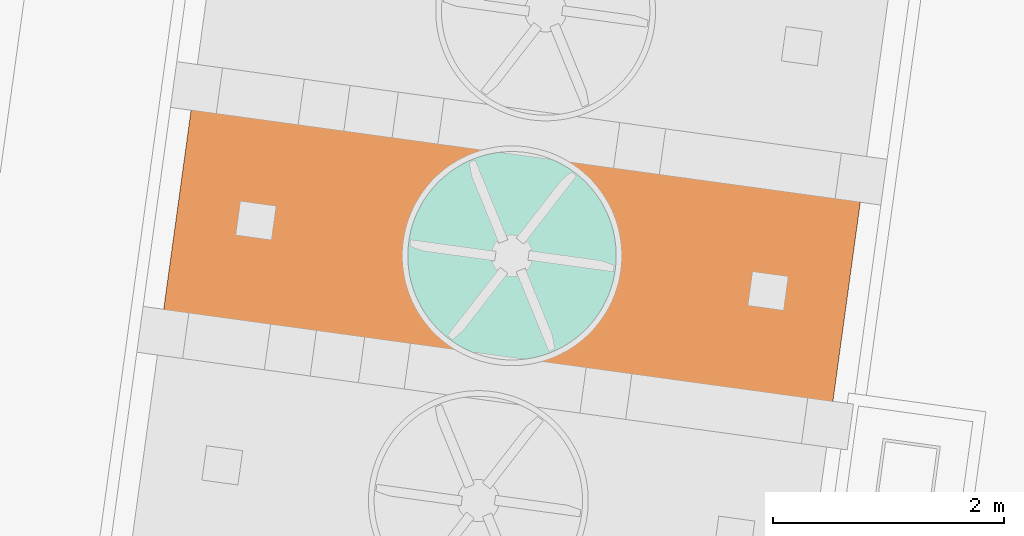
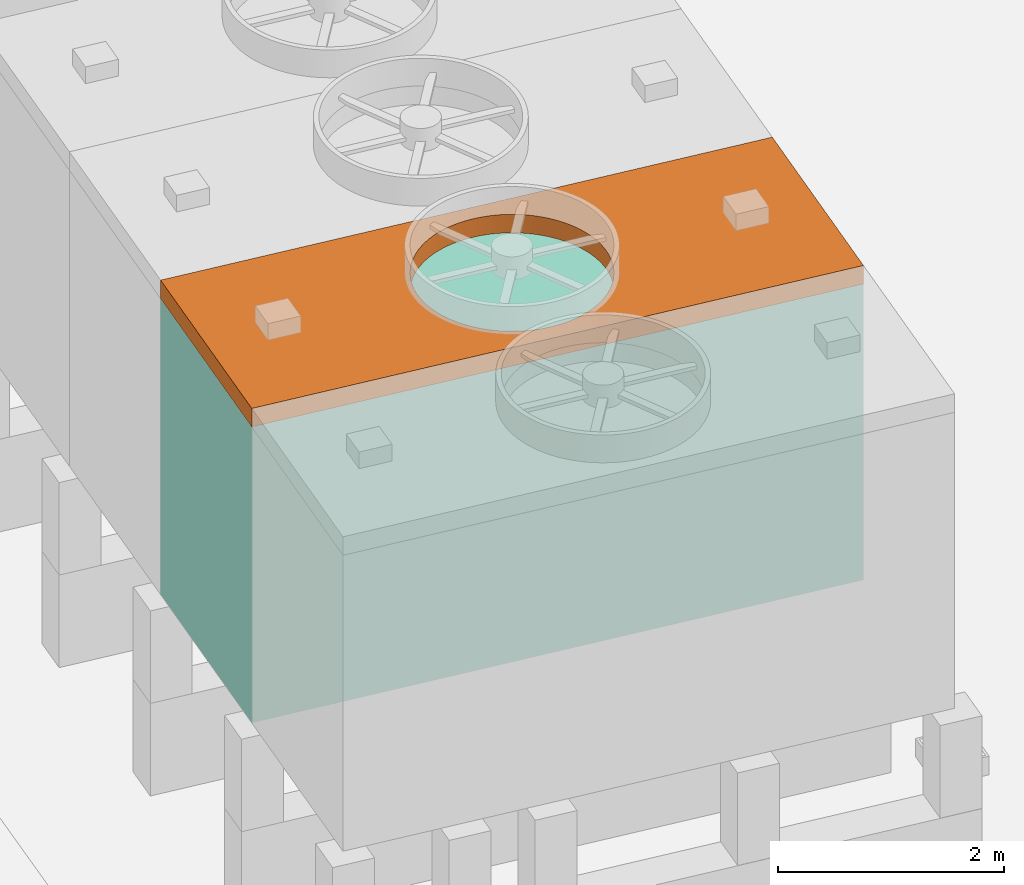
# Not in any storey, part 39 of 75: 1 proxy, plus 1 element that does not belong to this part.
"""IFC4 model written with IfcOpenShell, lengths in metres."""

from ifc_helpers import new_model, si_unit, direction, origin_with_axes, place, context, subcontext, project, spatial, triangles, element, aggregate, save


model = new_model("IFC4")

# Units and contexts
model_context = context("Model", 3, precision=1e-05, world=origin_with_axes(), true_north=direction((0.0, 1.0)))
body_context = subcontext(model_context, "Body", "Model", "MODEL_VIEW")
ifc_project = project(units=[si_unit("AREAUNIT", "SQUARE_METRE"), si_unit("VOLUMEUNIT", "CUBIC_METRE"), si_unit("LENGTHUNIT", "METRE")], contexts=[model_context])

# Site
site_placement = place(None, origin_with_axes())
site = spatial("IfcSite", under=ifc_project, at=site_placement, Name="Parcela industrial Jinhong")

# Cooling tower, proxy
cooling_tower_placement = place(site_placement, origin_with_axes())
cooling_tower = element("IfcCoolingTower", 1, at=cooling_tower_placement, inside=site, Name="Torre de refrigeración WT3001C · Envolvente del cuerpo de la torre", ObjectType="Envolvente de equipo", PredefinedType="USERDEFINED", context=body_context, shape_type="Tessellation", body=[
    triangles([(41.948887, 44.224235, 6.3), (36.44488, 47.141085, 6.3), (36.153404, 45.021028, 6.3), (36.44488, 47.141085, 3.1), (41.948887, 44.224235, 3.1), (36.153404, 45.021028, 3.1), (42.240363, 46.344292, 6.3), (42.240363, 46.344292, 3.1)], [[1, 2, 3], [4, 5, 6], [1, 7, 2], [5, 4, 8], [5, 8, 7], [5, 7, 1], [8, 4, 2], [7, 8, 2], [3, 4, 6], [4, 3, 2], [6, 5, 1], [3, 6, 1]], closed=True),
])
proxy_placement = place(cooling_tower_placement, origin_with_axes())
proxy = element("IfcBuildingElementProxy", 2, at=proxy_placement, Name="Torre de refrigeración WT3001C · Plataforma superior con hueco de ventilador", context=body_context, shape_type="Tessellation", body=[
    triangles([(38.307432, 45.834748, 6.5), (36.153404, 45.021028, 6.5), (38.302932, 45.805565, 6.5), (36.153404, 45.021028, 6.3), (38.307432, 45.834748, 6.3), (38.302932, 45.805565, 6.3), (38.299389, 45.77625, 6.5), (38.299389, 45.77625, 6.3), (36.44488, 47.141085, 6.5), (36.44488, 47.141085, 6.3), (38.296808, 45.746834, 6.5), (38.296808, 45.746834, 6.3), (38.312884, 45.863769, 6.5), (38.312884, 45.863769, 6.3), (38.29519, 45.71735, 6.5), (38.29519, 45.71735, 6.3), (38.319283, 45.892596, 6.5), (38.319283, 45.892596, 6.3), (38.294538, 45.687829, 6.5), (38.294538, 45.687829, 6.3), (38.326622, 45.921197, 6.5), (38.326622, 45.921197, 6.3), (38.294852, 45.658303, 6.5), (38.294852, 45.658303, 6.3), (38.334893, 45.949544, 6.5), (38.334893, 45.949544, 6.3), (38.296131, 45.628802, 6.5), (38.296131, 45.628802, 6.3), (38.344087, 45.977605, 6.5), (38.344087, 45.977605, 6.3), (38.298376, 45.599359, 6.5), (38.298376, 45.599359, 6.3), (38.354194, 46.005349, 6.5), (38.354194, 46.005349, 6.3), (38.301583, 45.570005, 6.5), (38.301583, 45.570005, 6.3), (38.365203, 46.032749, 6.5), (38.365203, 46.032749, 6.3), (38.305748, 45.540772, 6.5), (38.305748, 45.540772, 6.3), (38.377103, 46.059773, 6.5), (38.377103, 46.059773, 6.3), (38.310867, 45.511691, 6.5), (38.310867, 45.511691, 6.3), (38.38988, 46.086394, 6.5), (38.38988, 46.086394, 6.3), (38.316936, 45.482793, 6.5), (38.316936, 45.482793, 6.3), (38.403522, 46.112582, 6.5), (38.403522, 46.112582, 6.3), (38.323946, 45.454109, 6.5), (38.323946, 45.454109, 6.3), (38.418014, 46.13831, 6.5), (38.418014, 46.13831, 6.3), (38.331892, 45.425669, 6.5), (38.331892, 45.425669, 6.3), (38.433339, 46.16355, 6.5), (38.433339, 46.16355, 6.3), (38.340763, 45.397505, 6.5), (38.340763, 45.397505, 6.3), (38.449482, 46.188275, 6.5), (38.449482, 46.188275, 6.3), (38.350552, 45.369647, 6.5), (38.350552, 45.369647, 6.3), (38.466426, 46.212458, 6.5), (38.466426, 46.212458, 6.3), (38.361246, 45.342123, 6.5), (38.361246, 45.342123, 6.3), (38.484151, 46.236074, 6.5), (38.484151, 46.236074, 6.3), (38.372836, 45.314964, 6.5), (38.372836, 45.314964, 6.3), (38.50264, 46.259098, 6.5), (38.50264, 46.259098, 6.3), (38.385308, 45.288199, 6.5), (38.385308, 45.288199, 6.3), (38.521872, 46.281504, 6.5), (38.521872, 46.281504, 6.3), (38.398649, 45.261856, 6.5), (38.398649, 45.261856, 6.3), (38.541828, 46.30327, 6.5), (38.541828, 46.30327, 6.3), (38.412844, 45.235964, 6.5), (38.412844, 45.235964, 6.3), (38.562484, 46.32437, 6.5), (38.562484, 46.32437, 6.3), (38.42788, 45.21055, 6.5), (38.42788, 45.21055, 6.3), (38.58382, 46.344784, 6.5), (38.58382, 46.344784, 6.3), (38.443738, 45.185642, 6.5), (38.443738, 45.185642, 6.3), (38.605812, 46.364488, 6.5), (38.605812, 46.364488, 6.3), (38.460403, 45.161265, 6.5), (38.460403, 45.161265, 6.3), (38.628437, 46.383462, 6.5), (38.628437, 46.383462, 6.3), (38.477857, 45.137448, 6.5), (38.477857, 45.137448, 6.3), (38.651671, 46.401686, 6.5), (38.651671, 46.401686, 6.3), (38.496081, 45.114214, 6.5), (38.496081, 45.114214, 6.3), (38.675489, 46.41914, 6.5), (38.675489, 46.41914, 6.3), (38.515055, 45.091588, 6.5), (38.515055, 45.091588, 6.3), (38.699865, 46.435805, 6.5), (38.699865, 46.435805, 6.3), (38.53476, 45.069596, 6.5), (38.53476, 45.069596, 6.3), (38.724774, 46.451664, 6.5), (38.724774, 46.451664, 6.3), (38.555173, 45.04826, 6.5), (38.555173, 45.04826, 6.3), (38.750188, 46.466699, 6.5), (38.750188, 46.466699, 6.3), (38.576274, 45.027604, 6.5), (38.576274, 45.027604, 6.3), (38.77608, 46.480895, 6.5), (38.77608, 46.480895, 6.3), (38.598039, 45.007649, 6.5), (38.598039, 45.007649, 6.3), (38.802423, 46.494236, 6.5), (38.802423, 46.494236, 6.3), (38.620445, 44.988416, 6.5), (38.620445, 44.988416, 6.3), (38.829188, 46.506708, 6.5), (38.829188, 46.506708, 6.3), (38.643469, 44.969928, 6.5), (38.643469, 44.969928, 6.3), (38.856347, 46.518297, 6.5), (38.856347, 46.518297, 6.3), (38.667085, 44.952202, 6.5), (38.667085, 44.952202, 6.3), (38.88387, 46.528992, 6.5), (38.88387, 46.528992, 6.3), (38.691269, 44.935259, 6.5), (38.691269, 44.935259, 6.3), (38.911729, 46.53878, 6.5), (38.911729, 46.53878, 6.3), (38.715994, 44.919115, 6.5), (38.715994, 44.919115, 6.3), (38.939893, 46.547652, 6.5), (38.939893, 46.547652, 6.3), (38.741234, 44.90379, 6.5), (38.741234, 44.90379, 6.3), (38.968333, 46.555597, 6.5), (38.968333, 46.555597, 6.3), (38.766962, 44.889299, 6.5), (38.766962, 44.889299, 6.3), (38.997017, 46.562608, 6.5), (38.997017, 46.562608, 6.3), (38.79315, 44.875657, 6.5), (38.79315, 44.875657, 6.3), (39.025915, 46.568676, 6.5), (39.025915, 46.568676, 6.3), (38.81977, 44.862879, 6.5), (38.81977, 44.862879, 6.3), (39.054996, 46.573796, 6.5), (39.054996, 46.573796, 6.3), (38.846795, 44.850979, 6.5), (38.846795, 44.850979, 6.3), (39.084229, 46.577961, 6.5), (39.084229, 46.577961, 6.3), (38.874194, 44.83997, 6.5), (38.874194, 44.83997, 6.3), (39.113583, 46.581167, 6.5), (39.113583, 46.581167, 6.3), (38.901939, 44.829863, 6.5), (38.901939, 44.829863, 6.3), (39.143026, 46.583412, 6.5), (39.143026, 46.583412, 6.3), (38.929999, 44.820669, 6.5), (38.929999, 44.820669, 6.3), (39.172526, 46.584692, 6.5), (39.172526, 46.584692, 6.3), (38.958346, 44.812398, 6.5), (38.958346, 44.812398, 6.3), (39.202053, 46.585006, 6.5), (39.202053, 46.585006, 6.3), (38.986948, 44.80506, 6.5), (38.986948, 44.80506, 6.3), (39.231574, 46.584353, 6.5), (39.231574, 46.584353, 6.3), (39.015774, 44.798661, 6.5), (39.015774, 44.798661, 6.3), (39.261058, 46.582736, 6.5), (39.261058, 46.582736, 6.3), (39.044795, 44.793208, 6.5), (39.044795, 44.793208, 6.3), (42.240363, 46.344292, 6.5), (42.240363, 46.344292, 6.3), (39.073978, 44.788708, 6.5), (39.073978, 44.788708, 6.3), (39.290474, 46.580154, 6.5), (39.290474, 46.580154, 6.3), (39.103294, 44.785166, 6.5), (39.103294, 44.785166, 6.3), (39.319789, 46.576611, 6.5), (39.319789, 46.576611, 6.3), (39.132709, 44.782584, 6.5), (39.132709, 44.782584, 6.3), (39.348972, 46.572111, 6.5), (39.348972, 46.572111, 6.3), (41.948887, 44.224235, 6.5), (41.948887, 44.224235, 6.3), (39.377993, 46.566659, 6.5), (39.377993, 46.566659, 6.3), (39.162193, 44.780966, 6.5), (39.162193, 44.780966, 6.3), (39.406819, 46.56026, 6.5), (39.406819, 46.56026, 6.3), (39.191714, 44.780314, 6.5), (39.191714, 44.780314, 6.3), (39.435421, 46.552921, 6.5), (39.435421, 46.552921, 6.3), (39.221241, 44.780628, 6.5), (39.221241, 44.780628, 6.3), (39.463768, 46.54465, 6.5), (39.463768, 46.54465, 6.3), (39.250741, 44.781908, 6.5), (39.250741, 44.781908, 6.3), (39.491828, 46.535457, 6.5), (39.491828, 46.535457, 6.3), (39.280184, 44.784152, 6.5), (39.280184, 44.784152, 6.3), (39.519573, 46.52535, 6.5), (39.519573, 46.52535, 6.3), (39.309538, 44.787359, 6.5), (39.309538, 44.787359, 6.3), (39.546972, 46.51434, 6.5), (39.546972, 46.51434, 6.3), (39.338771, 44.791524, 6.5), (39.338771, 44.791524, 6.3), (39.573997, 46.502441, 6.5), (39.573997, 46.502441, 6.3), (39.367852, 44.796644, 6.5), (39.367852, 44.796644, 6.3), (39.600617, 46.489663, 6.5), (39.600617, 46.489663, 6.3), (39.39675, 44.802712, 6.5), (39.39675, 44.802712, 6.3), (39.626806, 46.476021, 6.5), (39.626806, 46.476021, 6.3), (39.425435, 44.809723, 6.5), (39.425435, 44.809723, 6.3), (39.652533, 46.46153, 6.5), (39.652533, 46.46153, 6.3), (39.453874, 44.817668, 6.5), (39.453874, 44.817668, 6.3), (39.677773, 46.446204, 6.5), (39.677773, 46.446204, 6.3), (39.482038, 44.82654, 6.5), (39.482038, 44.82654, 6.3), (39.702498, 46.430061, 6.5), (39.702498, 46.430061, 6.3), (39.509897, 44.836328, 6.5), (39.509897, 44.836328, 6.3), (39.726682, 46.413118, 6.5), (39.726682, 46.413118, 6.3), (39.53742, 44.847023, 6.5), (39.53742, 44.847023, 6.3), (39.750298, 46.395392, 6.5), (39.750298, 46.395392, 6.3), (39.564579, 44.858612, 6.5), (39.564579, 44.858612, 6.3), (39.773322, 46.376903, 6.5), (39.773322, 46.376903, 6.3), (39.591345, 44.871084, 6.5), (39.591345, 44.871084, 6.3), (39.795728, 46.357671, 6.5), (39.795728, 46.357671, 6.3), (39.617687, 44.884425, 6.5), (39.617687, 44.884425, 6.3), (39.817493, 46.337716, 6.5), (39.817493, 46.337716, 6.3), (39.64358, 44.89862, 6.5), (39.64358, 44.89862, 6.3), (39.838594, 46.317059, 6.5), (39.838594, 46.317059, 6.3), (39.668993, 44.913656, 6.5), (39.668993, 44.913656, 6.3), (39.693902, 44.929514, 6.5), (39.693902, 44.929514, 6.3), (39.859007, 46.295723, 6.5), (39.859007, 46.295723, 6.3), (39.718278, 44.94618, 6.5), (39.718278, 44.94618, 6.3), (39.878712, 46.273731, 6.5), (39.878712, 46.273731, 6.3), (39.742096, 44.963634, 6.5), (39.742096, 44.963634, 6.3), (39.897686, 46.251106, 6.5), (39.897686, 46.251106, 6.3), (39.76533, 44.981857, 6.5), (39.76533, 44.981857, 6.3), (39.91591, 46.227872, 6.5), (39.91591, 46.227872, 6.3), (39.787955, 45.000832, 6.5), (39.787955, 45.000832, 6.3), (39.933364, 46.204054, 6.5), (39.933364, 46.204054, 6.3), (39.809947, 45.020536, 6.5), (39.809947, 45.020536, 6.3), (39.950029, 46.179678, 6.5), (39.950029, 46.179678, 6.3), (39.831283, 45.040949, 6.5), (39.831283, 45.040949, 6.3), (39.965888, 46.15477, 6.5), (39.965888, 46.15477, 6.3), (39.85194, 45.06205, 6.5), (39.85194, 45.06205, 6.3), (39.980923, 46.129356, 6.5), (39.980923, 46.129356, 6.3), (39.871895, 45.083815, 6.5), (39.871895, 45.083815, 6.3), (39.995119, 46.103464, 6.5), (39.995119, 46.103464, 6.3), (39.891127, 45.106221, 6.5), (39.891127, 45.106221, 6.3), (40.008459, 46.077121, 6.5), (40.008459, 46.077121, 6.3), (39.909616, 45.129245, 6.5), (39.909616, 45.129245, 6.3), (40.020931, 46.050356, 6.5), (40.020931, 46.050356, 6.3), (39.927341, 45.152861, 6.5), (39.927341, 45.152861, 6.3), (40.032521, 46.023197, 6.5), (40.032521, 46.023197, 6.3), (39.944285, 45.177045, 6.5), (39.944285, 45.177045, 6.3), (40.043215, 45.995673, 6.5), (40.043215, 45.995673, 6.3), (39.960428, 45.20177, 6.5), (39.960428, 45.20177, 6.3), (40.053004, 45.967814, 6.5), (40.053004, 45.967814, 6.3), (39.975753, 45.22701, 6.5), (39.975753, 45.22701, 6.3), (40.061875, 45.93965, 6.5), (40.061875, 45.93965, 6.3), (39.990245, 45.252738, 6.5), (39.990245, 45.252738, 6.3), (40.069821, 45.911211, 6.5), (40.069821, 45.911211, 6.3), (40.003887, 45.278926, 6.5), (40.003887, 45.278926, 6.3), (40.076831, 45.882527, 6.5), (40.076831, 45.882527, 6.3), (40.016664, 45.305547, 6.5), (40.016664, 45.305547, 6.3), (40.0829, 45.853629, 6.5), (40.0829, 45.853629, 6.3), (40.028564, 45.332571, 6.5), (40.028564, 45.332571, 6.3), (40.088019, 45.824547, 6.5), (40.088019, 45.824547, 6.3), (40.039574, 45.35997, 6.5), (40.039574, 45.35997, 6.3), (40.092185, 45.795314, 6.5), (40.092185, 45.795314, 6.3), (40.04968, 45.387715, 6.5), (40.04968, 45.387715, 6.3), (40.095391, 45.765961, 6.5), (40.095391, 45.765961, 6.3), (40.058874, 45.415776, 6.5), (40.058874, 45.415776, 6.3), (40.097636, 45.736518, 6.5), (40.097636, 45.736518, 6.3), (40.067145, 45.444122, 6.5), (40.067145, 45.444122, 6.3), (40.098916, 45.707017, 6.5), (40.098916, 45.707017, 6.3), (40.074484, 45.472724, 6.5), (40.074484, 45.472724, 6.3), (40.09923, 45.67749, 6.5), (40.09923, 45.67749, 6.3), (40.080883, 45.501551, 6.5), (40.080883, 45.501551, 6.3), (40.098577, 45.647969, 6.5), (40.098577, 45.647969, 6.3), (40.086335, 45.530571, 6.5), (40.086335, 45.530571, 6.3), (40.096959, 45.618485, 6.5), (40.096959, 45.618485, 6.3), (40.090835, 45.559755, 6.5), (40.090835, 45.559755, 6.3), (40.094378, 45.58907, 6.5), (40.094378, 45.58907, 6.3)], [[1, 2, 3], [4, 5, 6], [7, 3, 2], [8, 4, 6], [2, 1, 9], [10, 5, 4], [11, 7, 2], [4, 8, 12], [1, 13, 9], [10, 14, 5], [15, 11, 2], [4, 12, 16], [13, 17, 9], [14, 10, 18], [19, 15, 2], [4, 16, 20], [17, 21, 9], [18, 10, 22], [23, 19, 2], [4, 20, 24], [21, 25, 9], [22, 10, 26], [27, 23, 2], [4, 24, 28], [25, 29, 9], [26, 10, 30], [31, 27, 2], [4, 28, 32], [29, 33, 9], [30, 10, 34], [35, 31, 2], [4, 32, 36], [33, 37, 9], [34, 10, 38], [39, 35, 2], [4, 36, 40], [37, 41, 9], [38, 10, 42], [43, 39, 2], [4, 40, 44], [41, 45, 9], [42, 10, 46], [47, 43, 2], [4, 44, 48], [45, 49, 9], [46, 10, 50], [51, 47, 2], [4, 48, 52], [49, 53, 9], [50, 10, 54], [55, 51, 2], [4, 52, 56], [53, 57, 9], [54, 10, 58], [59, 55, 2], [4, 56, 60], [57, 61, 9], [58, 10, 62], [63, 59, 2], [4, 60, 64], [61, 65, 9], [62, 10, 66], [67, 63, 2], [4, 64, 68], [65, 69, 9], [66, 10, 70], [71, 67, 2], [4, 68, 72], [69, 73, 9], [70, 10, 74], [75, 71, 2], [4, 72, 76], [73, 77, 9], [74, 10, 78], [79, 75, 2], [4, 76, 80], [77, 81, 9], [78, 10, 82], [83, 79, 2], [4, 80, 84], [81, 85, 9], [82, 10, 86], [87, 83, 2], [4, 84, 88], [85, 89, 9], [86, 10, 90], [91, 87, 2], [4, 88, 92], [89, 93, 9], [90, 10, 94], [95, 91, 2], [4, 92, 96], [93, 97, 9], [94, 10, 98], [99, 95, 2], [4, 96, 100], [97, 101, 9], [98, 10, 102], [103, 99, 2], [4, 100, 104], [101, 105, 9], [102, 10, 106], [107, 103, 2], [4, 104, 108], [105, 109, 9], [106, 10, 110], [111, 107, 2], [4, 108, 112], [109, 113, 9], [110, 10, 114], [115, 111, 2], [4, 112, 116], [113, 117, 9], [114, 10, 118], [119, 115, 2], [4, 116, 120], [117, 121, 9], [118, 10, 122], [123, 119, 2], [4, 120, 124], [121, 125, 9], [122, 10, 126], [127, 123, 2], [4, 124, 128], [125, 129, 9], [126, 10, 130], [131, 127, 2], [4, 128, 132], [129, 133, 9], [130, 10, 134], [135, 131, 2], [4, 132, 136], [133, 137, 9], [134, 10, 138], [139, 135, 2], [4, 136, 140], [137, 141, 9], [138, 10, 142], [143, 139, 2], [4, 140, 144], [141, 145, 9], [142, 10, 146], [147, 143, 2], [4, 144, 148], [145, 149, 9], [146, 10, 150], [151, 147, 2], [4, 148, 152], [149, 153, 9], [150, 10, 154], [155, 151, 2], [4, 152, 156], [153, 157, 9], [154, 10, 158], [159, 155, 2], [4, 156, 160], [157, 161, 9], [158, 10, 162], [163, 159, 2], [4, 160, 164], [161, 165, 9], [162, 10, 166], [167, 163, 2], [4, 164, 168], [165, 169, 9], [166, 10, 170], [171, 167, 2], [4, 168, 172], [169, 173, 9], [170, 10, 174], [175, 171, 2], [4, 172, 176], [173, 177, 9], [174, 10, 178], [179, 175, 2], [4, 176, 180], [177, 181, 9], [178, 10, 182], [183, 179, 2], [4, 180, 184], [181, 185, 9], [182, 10, 186], [187, 183, 2], [4, 184, 188], [185, 189, 9], [186, 10, 190], [191, 187, 2], [4, 188, 192], [189, 193, 9], [190, 10, 194], [191, 2, 195], [192, 196, 4], [193, 189, 197], [198, 190, 194], [195, 2, 199], [196, 200, 4], [193, 197, 201], [202, 198, 194], [199, 2, 203], [200, 204, 4], [193, 201, 205], [206, 202, 194], [203, 2, 207], [204, 208, 4], [193, 205, 209], [210, 206, 194], [211, 203, 207], [208, 204, 212], [193, 209, 213], [214, 210, 194], [215, 211, 207], [208, 212, 216], [193, 213, 217], [218, 214, 194], [219, 215, 207], [208, 216, 220], [193, 217, 221], [222, 218, 194], [207, 223, 219], [220, 224, 208], [193, 221, 225], [226, 222, 194], [207, 227, 223], [224, 228, 208], [193, 225, 229], [230, 226, 194], [207, 231, 227], [228, 232, 208], [193, 229, 233], [234, 230, 194], [207, 235, 231], [232, 236, 208], [193, 233, 237], [238, 234, 194], [207, 239, 235], [236, 240, 208], [193, 237, 241], [242, 238, 194], [207, 243, 239], [240, 244, 208], [193, 241, 245], [246, 242, 194], [207, 247, 243], [244, 248, 208], [193, 245, 249], [250, 246, 194], [207, 251, 247], [248, 252, 208], [193, 249, 253], [254, 250, 194], [207, 255, 251], [252, 256, 208], [193, 253, 257], [258, 254, 194], [207, 259, 255], [256, 260, 208], [193, 257, 261], [262, 258, 194], [207, 263, 259], [260, 264, 208], [193, 261, 265], [266, 262, 194], [207, 267, 263], [264, 268, 208], [193, 265, 269], [270, 266, 194], [207, 271, 267], [268, 272, 208], [193, 269, 273], [274, 270, 194], [207, 275, 271], [272, 276, 208], [193, 273, 277], [278, 274, 194], [207, 279, 275], [276, 280, 208], [193, 277, 281], [282, 278, 194], [207, 283, 279], [280, 284, 208], [207, 193, 281], [208, 282, 194], [207, 285, 283], [284, 286, 208], [207, 281, 287], [288, 282, 208], [207, 289, 285], [286, 290, 208], [207, 287, 291], [292, 288, 208], [207, 293, 289], [290, 294, 208], [207, 291, 295], [296, 292, 208], [207, 297, 293], [294, 298, 208], [207, 295, 299], [300, 296, 208], [207, 301, 297], [298, 302, 208], [207, 299, 303], [304, 300, 208], [207, 305, 301], [302, 306, 208], [207, 303, 307], [308, 304, 208], [207, 309, 305], [306, 310, 208], [207, 307, 311], [312, 308, 208], [309, 207, 313], [310, 314, 208], [207, 311, 315], [316, 312, 208], [313, 207, 317], [314, 318, 208], [207, 315, 319], [320, 316, 208], [317, 207, 321], [318, 322, 208], [207, 319, 323], [324, 320, 208], [321, 207, 325], [322, 326, 208], [207, 323, 327], [328, 324, 208], [325, 207, 329], [326, 330, 208], [207, 327, 331], [332, 328, 208], [329, 207, 333], [330, 334, 208], [207, 331, 335], [336, 332, 208], [333, 207, 337], [334, 338, 208], [207, 335, 339], [340, 336, 208], [337, 207, 341], [338, 342, 208], [207, 339, 343], [344, 340, 208], [341, 207, 345], [342, 346, 208], [207, 343, 347], [348, 344, 208], [345, 207, 349], [346, 350, 208], [207, 347, 351], [352, 348, 208], [349, 207, 353], [350, 354, 208], [207, 351, 355], [356, 352, 208], [353, 207, 357], [354, 358, 208], [207, 355, 359], [360, 356, 208], [357, 207, 361], [358, 362, 208], [207, 359, 363], [364, 360, 208], [361, 207, 365], [362, 366, 208], [207, 363, 367], [368, 364, 208], [365, 207, 369], [366, 370, 208], [207, 367, 371], [372, 368, 208], [369, 207, 373], [370, 374, 208], [207, 371, 375], [376, 372, 208], [373, 207, 377], [374, 378, 208], [207, 375, 379], [380, 376, 208], [377, 207, 381], [378, 382, 208], [207, 379, 383], [384, 380, 208], [381, 207, 385], [382, 386, 208], [207, 383, 387], [388, 384, 208], [385, 207, 389], [386, 390, 208], [207, 387, 391], [392, 388, 208], [389, 207, 391], [390, 392, 208], [207, 4, 208], [4, 207, 2], [194, 193, 208], [208, 193, 207], [194, 10, 9], [193, 194, 9], [4, 2, 10], [10, 2, 9], [392, 390, 389], [392, 389, 391], [390, 386, 385], [390, 385, 389], [386, 382, 381], [386, 381, 385], [382, 378, 377], [382, 377, 381], [378, 374, 373], [378, 373, 377], [374, 370, 369], [374, 369, 373], [370, 366, 365], [370, 365, 369], [366, 362, 361], [366, 361, 365], [362, 358, 357], [362, 357, 361], [358, 354, 353], [358, 353, 357], [354, 350, 349], [354, 349, 353], [350, 346, 345], [350, 345, 349], [346, 342, 341], [346, 341, 345], [342, 338, 337], [342, 337, 341], [338, 334, 333], [338, 333, 337], [334, 330, 329], [334, 329, 333], [330, 326, 325], [330, 325, 329], [326, 322, 321], [326, 321, 325], [322, 318, 317], [322, 317, 321], [318, 314, 313], [318, 313, 317], [314, 310, 309], [314, 309, 313], [310, 306, 305], [310, 305, 309], [306, 302, 301], [306, 301, 305], [302, 298, 297], [302, 297, 301], [298, 294, 293], [298, 293, 297], [294, 290, 289], [294, 289, 293], [290, 286, 285], [290, 285, 289], [286, 284, 283], [286, 283, 285], [284, 280, 279], [284, 279, 283], [280, 276, 275], [280, 275, 279], [276, 272, 271], [276, 271, 275], [272, 268, 267], [272, 267, 271], [268, 264, 263], [268, 263, 267], [264, 260, 259], [264, 259, 263], [260, 256, 255], [260, 255, 259], [256, 252, 251], [256, 251, 255], [252, 248, 247], [252, 247, 251], [248, 244, 243], [248, 243, 247], [244, 240, 239], [244, 239, 243], [240, 236, 235], [240, 235, 239], [236, 232, 231], [236, 231, 235], [232, 228, 227], [232, 227, 231], [228, 224, 223], [228, 223, 227], [224, 220, 219], [224, 219, 223], [220, 216, 215], [220, 215, 219], [216, 212, 211], [216, 211, 215], [212, 204, 203], [212, 203, 211], [204, 200, 199], [204, 199, 203], [200, 196, 195], [200, 195, 199], [196, 192, 191], [196, 191, 195], [192, 188, 187], [192, 187, 191], [188, 184, 183], [188, 183, 187], [184, 180, 179], [184, 179, 183], [180, 176, 175], [180, 175, 179], [176, 172, 171], [176, 171, 175], [172, 168, 167], [172, 167, 171], [168, 164, 163], [168, 163, 167], [164, 160, 159], [164, 159, 163], [160, 156, 155], [160, 155, 159], [156, 152, 151], [156, 151, 155], [152, 148, 147], [152, 147, 151], [148, 144, 143], [148, 143, 147], [144, 140, 139], [144, 139, 143], [140, 136, 135], [140, 135, 139], [136, 132, 131], [136, 131, 135], [132, 128, 127], [132, 127, 131], [128, 124, 123], [128, 123, 127], [124, 120, 119], [124, 119, 123], [120, 116, 115], [120, 115, 119], [116, 112, 111], [116, 111, 115], [112, 108, 107], [112, 107, 111], [108, 104, 103], [108, 103, 107], [104, 100, 99], [104, 99, 103], [100, 96, 95], [100, 95, 99], [96, 92, 91], [96, 91, 95], [92, 88, 87], [92, 87, 91], [88, 84, 83], [88, 83, 87], [84, 80, 79], [84, 79, 83], [80, 76, 75], [80, 75, 79], [76, 72, 71], [76, 71, 75], [72, 68, 67], [72, 67, 71], [68, 64, 63], [68, 63, 67], [64, 60, 59], [64, 59, 63], [60, 56, 55], [60, 55, 59], [56, 52, 51], [56, 51, 55], [52, 48, 47], [52, 47, 51], [48, 44, 43], [48, 43, 47], [44, 40, 39], [44, 39, 43], [40, 36, 35], [40, 35, 39], [36, 32, 31], [36, 31, 35], [32, 28, 27], [32, 27, 31], [28, 24, 23], [28, 23, 27], [24, 20, 19], [24, 19, 23], [20, 16, 15], [20, 15, 19], [16, 12, 11], [16, 11, 15], [12, 8, 7], [12, 7, 11], [8, 6, 3], [8, 3, 7], [6, 5, 1], [1, 3, 6], [5, 14, 13], [5, 13, 1], [14, 18, 17], [14, 17, 13], [18, 22, 21], [18, 21, 17], [22, 26, 25], [22, 25, 21], [26, 30, 29], [26, 29, 25], [30, 34, 33], [30, 33, 29], [34, 38, 37], [34, 37, 33], [38, 42, 41], [38, 41, 37], [42, 46, 45], [42, 45, 41], [46, 50, 49], [46, 49, 45], [50, 54, 53], [50, 53, 49], [54, 58, 57], [54, 57, 53], [58, 62, 61], [58, 61, 57], [62, 66, 65], [62, 65, 61], [66, 70, 69], [66, 69, 65], [70, 74, 73], [70, 73, 69], [74, 78, 77], [74, 77, 73], [78, 82, 81], [78, 81, 77], [82, 86, 85], [82, 85, 81], [89, 86, 90], [89, 85, 86], [93, 90, 94], [93, 89, 90], [97, 94, 98], [97, 93, 94], [101, 98, 102], [101, 97, 98], [105, 102, 106], [105, 101, 102], [109, 106, 110], [109, 105, 106], [113, 110, 114], [113, 109, 110], [117, 114, 118], [117, 113, 114], [121, 118, 122], [121, 117, 118], [125, 122, 126], [125, 121, 122], [129, 126, 130], [129, 125, 126], [133, 130, 134], [133, 129, 130], [137, 134, 138], [137, 133, 134], [141, 138, 142], [141, 137, 138], [145, 142, 146], [145, 141, 142], [149, 146, 150], [149, 145, 146], [153, 150, 154], [153, 149, 150], [157, 154, 158], [157, 153, 154], [161, 158, 162], [161, 157, 158], [165, 162, 166], [165, 161, 162], [169, 166, 170], [169, 165, 166], [173, 170, 174], [173, 169, 170], [177, 174, 178], [177, 173, 174], [181, 178, 182], [181, 177, 178], [185, 182, 186], [185, 181, 182], [189, 186, 190], [189, 185, 186], [197, 190, 198], [197, 189, 190], [201, 198, 202], [201, 197, 198], [205, 202, 206], [205, 201, 202], [209, 206, 210], [209, 205, 206], [213, 210, 214], [213, 209, 210], [217, 214, 218], [217, 213, 214], [221, 218, 222], [221, 217, 218], [225, 222, 226], [225, 221, 222], [229, 226, 230], [229, 225, 226], [233, 230, 234], [233, 229, 230], [237, 234, 238], [237, 233, 234], [241, 238, 242], [241, 237, 238], [245, 242, 246], [245, 241, 242], [249, 246, 250], [249, 245, 246], [253, 250, 254], [253, 249, 250], [257, 254, 258], [257, 253, 254], [261, 258, 262], [261, 257, 258], [265, 262, 266], [265, 261, 262], [269, 266, 270], [269, 265, 266], [273, 270, 274], [273, 269, 270], [277, 274, 278], [277, 273, 274], [281, 278, 282], [281, 277, 278], [282, 288, 287], [282, 287, 281], [288, 292, 291], [288, 291, 287], [292, 296, 295], [292, 295, 291], [296, 300, 299], [296, 299, 295], [300, 304, 303], [300, 303, 299], [304, 308, 307], [304, 307, 303], [308, 312, 311], [308, 311, 307], [312, 316, 315], [312, 315, 311], [316, 320, 319], [316, 319, 315], [320, 324, 323], [320, 323, 319], [324, 328, 327], [324, 327, 323], [328, 332, 331], [328, 331, 327], [332, 336, 335], [332, 335, 331], [336, 340, 339], [336, 339, 335], [340, 344, 343], [340, 343, 339], [344, 348, 347], [344, 347, 343], [348, 352, 351], [348, 351, 347], [352, 356, 355], [352, 355, 351], [356, 360, 359], [356, 359, 355], [360, 364, 363], [360, 363, 359], [364, 368, 367], [364, 367, 363], [368, 372, 371], [368, 371, 367], [372, 376, 375], [372, 375, 371], [376, 380, 379], [376, 379, 375], [380, 384, 383], [380, 383, 379], [384, 388, 387], [384, 387, 383], [388, 392, 391], [388, 391, 387]], closed=True),
])
aggregate(cooling_tower, [proxy])

save(model, "model.ifc")
